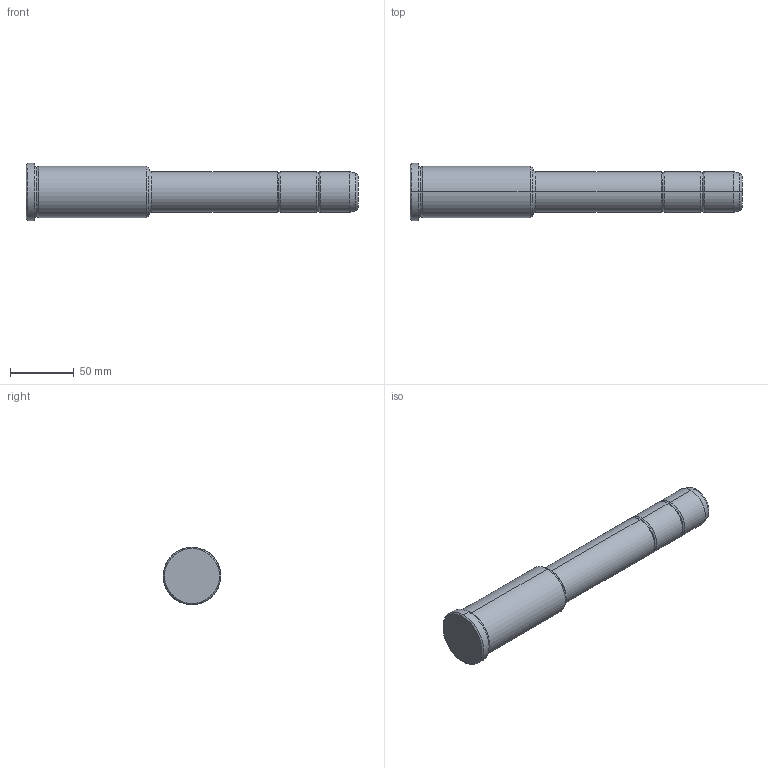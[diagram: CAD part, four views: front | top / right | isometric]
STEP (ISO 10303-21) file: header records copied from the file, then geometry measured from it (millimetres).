
FILE_DESCRIPTION(('CATIA V5 STEP Exchange'),'2;1');
FILE_NAME('C:\Users\Utente\Desktop\IO LAVORO\3D X SITO CF\X SITO\PLASTICA\351\351-32X96X260.stp','2021-09-10T12:18:29+00:00',('none'),('none'),'CATIA Version 5 Release 20 GA (IN-10)','CATIA V5 STEP AP203','none');
FILE_SCHEMA(('CONFIG_CONTROL_DESIGN'));
Length unit declared in the file: millimetre
Products named in the file (1): 351-32X96X260
Bounding box: 260 x 45 x 45 mm (x, y, z)
Volume: 253665.1 mm3; surface area: 31412.3 mm2
Topology: 1 solids, 1 shells, 36 faces, 102 edges, 70 vertices
Faces by surface type: torus 16, cylinder 10, cone 6, plane 4
Entity records: 1292 total; most frequent: CARTESIAN_POINT 321, ORIENTED_EDGE 204, DIRECTION 166, AXIS2_PLACEMENT_3D 115, EDGE_CURVE 102, CIRCLE 78, VERTEX_POINT 70, EDGE_LOOP 38
